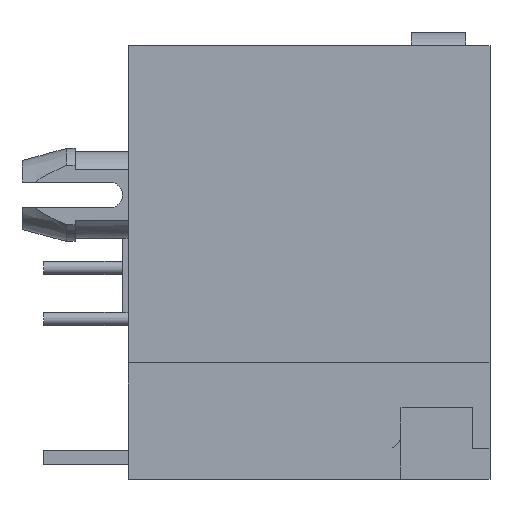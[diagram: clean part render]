
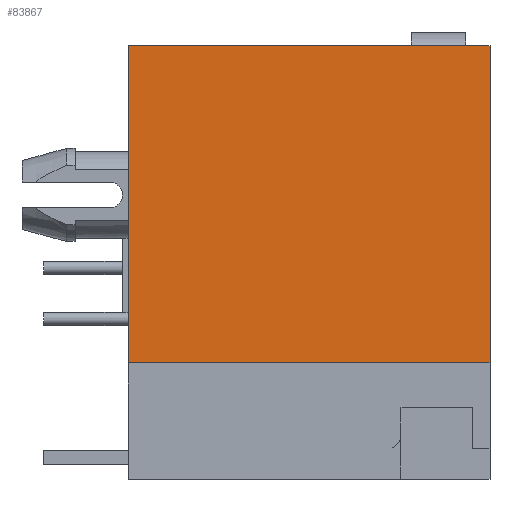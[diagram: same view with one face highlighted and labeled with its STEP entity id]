
A CAD part, front view. The second image highlights one B-rep face of the part: STEP entity #83867.
In plain terms, the highlighted planar face has unit normal (0, -1, 0).
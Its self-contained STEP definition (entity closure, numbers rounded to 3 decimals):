
#52008=DIRECTION('',(1.,0.,0.));
#52009=VECTOR('',#52008,12.6);
#52010=CARTESIAN_POINT('',(0.,-31.475,15.1));
#52011=LINE('',#52010,#52009);
#54653=DIRECTION('',(0.,0.,1.));
#54654=VECTOR('',#54653,11.05);
#54655=CARTESIAN_POINT('',(12.6,-31.475,4.05));
#54656=LINE('',#54655,#54654);
#57749=DIRECTION('',(1.,0.,0.));
#57750=VECTOR('',#57749,12.6);
#57751=CARTESIAN_POINT('',(0.,-31.475,4.05));
#57752=LINE('',#57751,#57750);
#57753=DIRECTION('',(0.,0.,1.));
#57754=VECTOR('',#57753,11.05);
#57755=CARTESIAN_POINT('',(0.,-31.475,4.05));
#57756=LINE('',#57755,#57754);
#75320=CARTESIAN_POINT('',(0.,-31.475,15.1));
#75321=CARTESIAN_POINT('',(12.6,-31.475,15.1));
#75322=VERTEX_POINT('',#75320);
#75323=VERTEX_POINT('',#75321);
#75330=CARTESIAN_POINT('',(0.,-31.475,4.05));
#75331=CARTESIAN_POINT('',(12.6,-31.475,4.05));
#75332=VERTEX_POINT('',#75330);
#75333=VERTEX_POINT('',#75331);
#83856=CARTESIAN_POINT('',(0.,-31.475,0.));
#83857=DIRECTION('',(0.,-1.,0.));
#83858=DIRECTION('',(1.,0.,0.));
#83859=AXIS2_PLACEMENT_3D('',#83856,#83857,#83858);
#83860=PLANE('',#83859);
#83861=ORIENTED_EDGE('',*,*,#83849,.F.);
#83862=ORIENTED_EDGE('',*,*,#77148,.T.);
#83863=ORIENTED_EDGE('',*,*,#76176,.T.);
#83864=ORIENTED_EDGE('',*,*,#78320,.F.);
#83865=EDGE_LOOP('',(#83861,#83862,#83863,#83864));
#83866=FACE_OUTER_BOUND('',#83865,.F.);
#83867=ADVANCED_FACE('',(#83866),#83860,.T.);
#76176=EDGE_CURVE('',#75322,#75323,#52011,.T.);
#77148=EDGE_CURVE('',#75332,#75322,#57756,.T.);
#78320=EDGE_CURVE('',#75333,#75323,#54656,.T.);
#83849=EDGE_CURVE('',#75332,#75333,#57752,.T.);
